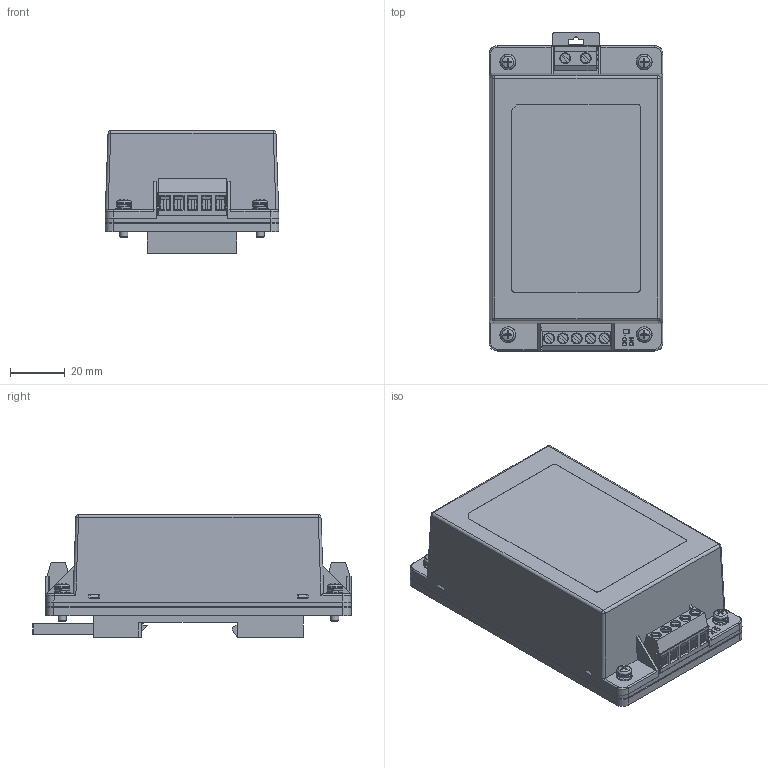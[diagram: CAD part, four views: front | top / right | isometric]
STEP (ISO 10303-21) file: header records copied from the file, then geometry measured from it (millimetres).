
FILE_DESCRIPTION((''),'2;1');
FILE_NAME('E:\A-本機磁碟(E)\Karens Share\Din-Rail 3D Model\APM-40.stp','2015-07-10T16:29:10',('COSMOS'),(''),'Autodesk Inventor 2008','Autodesk Inventor 2008','');
FILE_SCHEMA(('AUTOMOTIVE_DESIGN { 1 0 10303 214 1 1 1 1 }'));
Length unit declared in the file: millimetre
Products named in the file (18): APM-40; Connect(5 PIN); Connect(2 PIN); APM-40 Chassis BASE; APM-40 Chassis CASE; 實體1C; 實體1_1; 30w夾扣散熱片; DIN rail; DIN_1; DIN_2; DIN_3; M3-8mm; FLAT WASHER; SPRING WASHER; M3-12mm
Assembly tree (25 placements, depth 3):
  APM-40
    Connect(5 PIN)
    Connect(2 PIN)
    APM-40 Chassis BASE
    APM-40 Chassis CASE
      實體1C
      實體1_1
    30w夾扣散熱片
    DIN rail
      DIN_1
      DIN_2
      DIN_3
    M3-8mm  x4
      FLAT WASHER
      SPRING WASHER
      M3-8mm
    M3-12mm  x4
      M3-12mm
      FLAT WASHER
      SPRING WASHER
Bounding box: 63.8 x 116.7 x 45.1 mm (x, y, z)
Volume: 201849.5 mm3; surface area: 73946.8 mm2
Topology: 33 solids, 33 shells, 1093 faces, 2756 edges, 1788 vertices
Faces by surface type: plane 651, cylinder 228, cone 99, torus 52, bspline 49, sphere 14
Full cylindrical faces by diameter (mm): 1.3 x4, 1.5 x2, 1.8 x1, 2.5 x1, 2.729 x8, 2.8 x8, 3 x16, 3.4 x8, 3.5 x16, 4 x8, 4.1 x2, 5.5 x8, 5.8 x8, 6 x4, 6.5 x1, 8.6 x1
Entity records: 27864 total; most frequent: CARTESIAN_POINT 7034, ORIENTED_EDGE 4142, DIRECTION 4084, EDGE_CURVE 2071, VECTOR 1522, LINE 1522, VERTEX_POINT 1404, AXIS2_PLACEMENT_3D 1281
